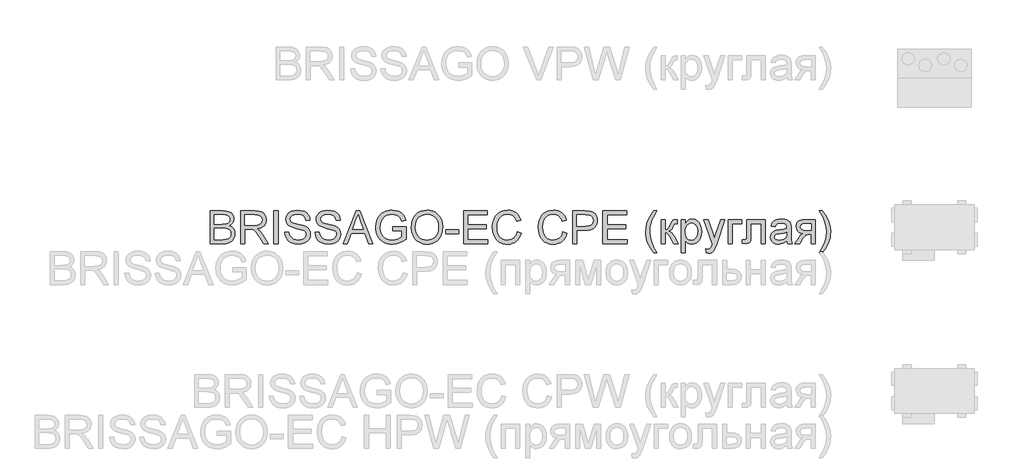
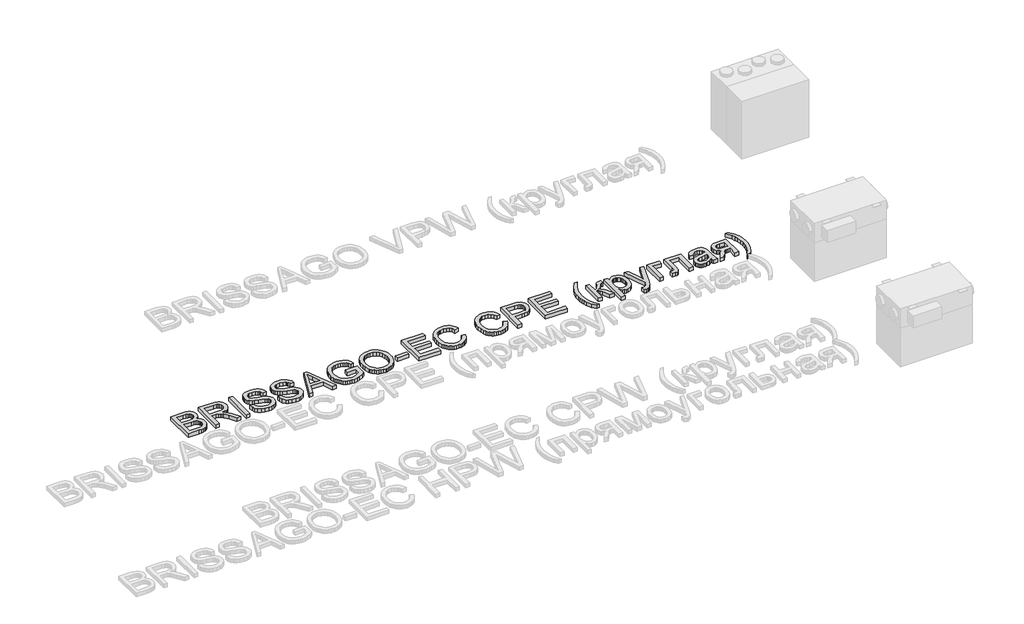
# One storey, part 12 of 28: 1 proxy.
"""IFC4 building model written with IfcOpenShell, lengths in millimetres."""

import ifcopenshell
import ifcopenshell.guid

model = None  # the IFC model being written
_history = None  # IfcOwnerHistory: only IFC2X3 demands one
_inside = {}  # id of a spatial element -> (the spatial element, [elements in it])
_under = {}  # id of a project, library or spatial element -> (it, [spatial elements below it])
_declared = {}  # id of a project -> (the project, [libraries it declares])
_typed = {}  # id of a type object -> (the type object, [elements of that type])
_made_of = {}  # id of a material, layer set ... -> (it, [elements and type objects made of it])


def new_model(schema):
    """Start an empty IFC model of exactly this schema.

    Asked for "IFC4X3", IfcOpenShell would pick the latest addendum, in which some entities
    have other attributes; the version numbers below select the first issue.
    IFC2X3 requires an IfcOwnerHistory on every rooted entity: one is made here for all.
    """
    global model, _history
    if schema == "IFC4X3":
        model = ifcopenshell.file(schema_version=(4, 3, 0, 0))
    else:
        model = ifcopenshell.file(schema=schema)
    _inside.clear()
    _under.clear()
    _declared.clear()
    _typed.clear()
    _made_of.clear()
    _history = None
    if model.schema == "IFC2X3":
        org = make("IfcOrganization", Name="unknown")
        user = make(
            "IfcPersonAndOrganization",
            ThePerson=make("IfcPerson", FamilyName="unknown"),
            TheOrganization=org,
        )
        app = make(
            "IfcApplication",
            ApplicationDeveloper=org,
            Version="unknown",
            ApplicationFullName="unknown",
            ApplicationIdentifier="unknown",
        )
        _history = make(
            "IfcOwnerHistory",
            OwningUser=user,
            OwningApplication=app,
            ChangeAction="ADDED",
            CreationDate=0,
        )
    return model


def make(cls, **values):
    """One entity of the class cls with the attributes given. An attribute that is None is left unset."""
    return model.create_entity(
        cls, **{name: value for name, value in values.items() if value is not None}
    )


def rooted(cls, **values):
    """An entity with a GlobalId (a new one), such as an element, a storey or a relation."""
    return make(cls, GlobalId=ifcopenshell.guid.new(), OwnerHistory=_history, **values)


def si_unit(unit_type, name, prefix=None):
    """IfcSIUnit, for example si_unit("LENGTHUNIT", "METRE", prefix="MILLI")."""
    return make("IfcSIUnit", UnitType=unit_type, Prefix=prefix, Name=name)


def assignment(units):
    """IfcUnitAssignment: the units of a project."""
    return None if units is None else make("IfcUnitAssignment", Units=units)


def point(xyz):
    """IfcCartesianPoint."""
    return None if xyz is None else make("IfcCartesianPoint", Coordinates=xyz)


def direction(xyz):
    """IfcDirection."""
    return None if xyz is None else make("IfcDirection", DirectionRatios=xyz)


def frame(location, z_axis=None, x_axis=None):
    """IfcAxis2Placement3D, a coordinate frame: its origin and axes. An axis left out is left unset."""
    return make(
        "IfcAxis2Placement3D",
        Location=point(location),
        Axis=direction(z_axis),
        RefDirection=direction(x_axis),
    )


def origin():
    """The frame at (0, 0, 0) with its axes left unset."""
    return frame((0.0, 0.0, 0.0))


def origin_with_axes():
    """The frame at (0, 0, 0) with the z axis (0, 0, 1) and the x axis (1, 0, 0) written out."""
    return frame((0.0, 0.0, 0.0), z_axis=(0.0, 0.0, 1.0), x_axis=(1.0, 0.0, 0.0))


def place(relative_to, where):
    """IfcLocalPlacement: puts the frame where relative to a parent placement (None: the world)."""
    return make(
        "IfcLocalPlacement", PlacementRelTo=relative_to, RelativePlacement=where
    )


def context(
    kind, dimensions, precision=None, world=None, true_north=None, identifier=None
):
    """IfcGeometricRepresentationContext, for example the 3D "Model" context."""
    return make(
        "IfcGeometricRepresentationContext",
        ContextIdentifier=identifier,
        ContextType=kind,
        CoordinateSpaceDimension=dimensions,
        Precision=precision,
        WorldCoordinateSystem=world,
        TrueNorth=true_north,
    )


def project(units=None, contexts=None):
    """IfcProject with its units and contexts."""
    return rooted(
        "IfcProject",
        Name="project",
        RepresentationContexts=contexts,
        UnitsInContext=assignment(units),
    )


def spatial(cls, under=None, at=None, **own):
    """A site, building, storey or space (cls), placed at a placement, below another one or the project."""
    s = rooted(cls, ObjectPlacement=at, **own)
    if under is not None:
        _under.setdefault(under.id(), (under, []))[1].append(s)
    return s


def polyline(points):
    """IfcPolyline through the points."""
    return make("IfcPolyline", Points=[point(p) for p in points])


def outline(outer, holes=None, kind="AREA"):
    """IfcArbitraryClosedProfileDef: a profile drawn as a closed curve; with holes, ...WithVoids."""
    if holes is None:
        return make("IfcArbitraryClosedProfileDef", ProfileType=kind, OuterCurve=outer)
    return make(
        "IfcArbitraryProfileDefWithVoids",
        ProfileType=kind,
        OuterCurve=outer,
        InnerCurves=holes,
    )


def extrude(swept, where, along, depth):
    """IfcExtrudedAreaSolid: the profile swept, set in the frame where, extruded along a direction by depth."""
    return make(
        "IfcExtrudedAreaSolid",
        SweptArea=swept,
        Position=where,
        ExtrudedDirection=direction(along),
        Depth=depth,
    )


def shape(context_of_items, identifier, shape_type, items):
    """IfcShapeRepresentation: the items that make up one representation, for example the "Body"."""
    return make(
        "IfcShapeRepresentation",
        ContextOfItems=context_of_items,
        RepresentationIdentifier=identifier,
        RepresentationType=shape_type,
        Items=items,
    )


def made_of(thing, what):
    """Note that an element or type object is made of a material, layer set ...; save() writes the relation."""
    if what is not None:
        _made_of.setdefault(what.id(), (what, []))[1].append(thing)
    return thing


def element(
    cls,
    number,
    at=None,
    inside=None,
    cuts=None,
    type_object=None,
    material=None,
    context=None,
    identifier="Body",
    shape_type=None,
    held_by="IfcProductDefinitionShape",
    body=None,
    shapes=None,
    **own,
):
    """One element of the class cls, such as IfcWall. Its Tag is "e" and its number.

    at: its placement. inside: the storey or other place that contains it. cuts: it is an
    opening in that element (IfcRelVoidsElement). A single representation is given by context,
    identifier, shape_type and body (its items); several are given by shapes. held_by: the class
    of the entity that holds the representations. save() writes the other relations.
    """
    e = rooted(cls, Tag="e%d" % number, ObjectPlacement=at, **own)
    if body is not None:
        shapes = [shape(context, identifier, shape_type, body)]
    if shapes is not None:
        e.Representation = make(held_by, Representations=shapes)
    if inside is not None:
        _inside.setdefault(inside.id(), (inside, []))[1].append(e)
    if cuts is not None:
        rooted(
            "IfcRelVoidsElement", RelatingBuildingElement=cuts, RelatedOpeningElement=e
        )
    if type_object is not None:
        _typed.setdefault(type_object.id(), (type_object, []))[1].append(e)
    return made_of(e, material)


def aggregate(whole, parts):
    """IfcRelAggregates: a whole, such as a stair, and the parts it consists of."""
    return rooted("IfcRelAggregates", RelatingObject=whole, RelatedObjects=parts)


def save(model, path):
    """Write the relations noted so far, then the file.

    IfcRelAggregates (storeys below a building ...), IfcRelContainedInSpatialStructure (elements
    in a storey), IfcRelDefinesByType, IfcRelAssociatesMaterial and IfcRelDeclares: one each for
    every whole, place, type object, material and project.
    """
    for whole, parts in _under.values():
        aggregate(whole, parts)
    for where, things in _inside.values():
        rooted(
            "IfcRelContainedInSpatialStructure",
            RelatedElements=things,
            RelatingStructure=where,
        )
    for kind, things in _typed.values():
        rooted("IfcRelDefinesByType", RelatedObjects=things, RelatingType=kind)
    for what, things in _made_of.values():
        rooted("IfcRelAssociatesMaterial", RelatedObjects=things, RelatingMaterial=what)
    for by, libraries in _declared.values():
        rooted("IfcRelDeclares", RelatingContext=by, RelatedDefinitions=libraries)
    model.write(path)


model = new_model("IFC4")

# Units and contexts
model_context = context("Model", 3, world=origin())
ifc_project = project(units=[si_unit("LENGTHUNIT", "METRE", prefix="MILLI")], contexts=[model_context])

# Site, building, storey
site = spatial("IfcSite", under=ifc_project)
building = spatial("IfcBuilding", under=site)
storey = spatial("IfcBuildingStorey", under=building, Name="Уровень 1", Elevation=0.0)

# Proxy
placement = place(None, origin())
element("IfcBuildingElementProxy", 1, Name="400 мм Arial", ObjectType="400 мм Arial", at=placement, inside=storey, context=model_context, shape_type="SweptSolid", body=[
    extrude(outline(polyline([(-29525.6094879, -2348.6932142), (-29525.6094879, -1946.8679737), (-29372.2762723, -1946.8679737), (-29330.1047329, -1949.8232923), (-29297.1792944, -1958.6892484), (-29271.9425895, -1973.6865711), (-29252.8372512, -1995.0359896), (-29240.80751, -2020.1500671), (-29236.7975962, -2046.441367), (-29240.1698479, -2070.6357396), (-29250.2866027, -2093.3831096), (-29267.2214372, -2113.2855255), (-29291.0479278, -2128.9450358), (-29262.5861241, -2143.8074684), (-29241.5555367, -2166.4199484), (-29228.5693023, -2195.2864223), (-29224.2405575, -2228.9108366), (-29227.1958762, -2256.9311819), (-29236.0618322, -2282.9159135), (-29249.2933213, -2305.0133587), (-29265.3452391, -2321.3718447), (-29285.0024003, -2333.217645), (-29309.0496201, -2341.7770327), (-29338.2717132, -2346.9641689), (-29373.4534947, -2348.6932142), (-29525.6094879, -2348.6932142)]), holes=[polyline([(-29475.3813328, -2110.1094776), (-29383.6560887, -2110.1094776), (-29330.0924702, -2105.7929956), (-29311.3427512, -2098.3495165), (-29297.8660074, -2087.2026921), (-29289.7358153, -2072.5242005), (-29287.0257513, -2054.48572), (-29289.5518743, -2036.974537), (-29297.1302434, -2021.7196969), (-29309.4175021, -2009.812583), (-29326.0702937, -2002.3445785), (-29351.6258297, -1998.4082412), (-29390.6213211, -1997.0961287), (-29475.3813328, -1997.0961287), (-29475.3813328, -2110.1094776)]), polyline([(-29475.3813328, -2298.4650592), (-29372.3743742, -2298.4650592), (-29335.0956653, -2296.5030219), (-29303.5559156, -2285.5646639), (-29291.9798955, -2276.1346221), (-29282.6602183, -2263.2464895), (-29276.516589, -2247.4766146), (-29274.4687125, -2229.4013459), (-29276.8722082, -2208.4075468), (-29284.0826953, -2190.3568035), (-29296.6765223, -2176.2423976), (-29315.2300376, -2167.0576105), (-29341.5090748, -2162.0176272), (-29377.2794675, -2160.3376327), (-29475.3813328, -2160.3376327), (-29475.3813328, -2298.4650592)])]), origin_with_axes(), (0.0, 0.0, 1.0), 50.0),
    extrude(outline(polyline([(-29155.1768442, -2348.6932142), (-29155.1768442, -1946.8679737), (-28982.0270518, -1946.8679737), (-28935.4899794, -1949.5780377), (-28901.6325732, -1957.7082298), (-28876.8863776, -1972.7178152), (-28857.6829375, -1996.0660591), (-28845.3588906, -2025.0183722), (-28841.250875, -2056.8401647), (-28842.9523292, -2077.4783447), (-28848.0566919, -2096.4242674), (-28856.5639631, -2113.677933), (-28868.4741427, -2129.2393414), (-28883.9405149, -2142.6118519), (-28903.1163639, -2153.2988239), (-28926.0016897, -2161.3002573), (-28952.5964922, -2166.6161521), (-28924.0488494, -2188.1004606), (-28883.3365753, -2239.8001437), (-28816.3330012, -2348.6932142), (-28874.7036111, -2348.6932142), (-28926.9919054, -2265.4047305), (-28964.7611235, -2210.2714822), (-28978.801953, -2194.195039), (-28991.2976781, -2184.2254369), (-29015.1854823, -2174.6605051), (-29044.3217364, -2172.8946715), (-29104.9486892, -2172.8946715), (-29104.9486892, -2348.6932142), (-29155.1768442, -2348.6932142)]), holes=[polyline([(-29104.9486892, -2122.6665164), (-28992.5239514, -2122.6665164), (-28960.236175, -2120.8884201), (-28935.1834111, -2115.5541312), (-28916.3233275, -2106.3080304), (-28902.6135918, -2092.7944984), (-28894.2626705, -2076.4482751), (-28891.4790301, -2058.7041002), (-28896.7887936, -2034.2031593), (-28912.7180839, -2014.4601589), (-28924.8796496, -2006.8633957), (-28940.1252926, -2001.4371363), (-28979.8688108, -1997.0961287), (-29104.9486892, -1997.0961287), (-29104.9486892, -2122.6665164)])]), origin_with_axes(), (0.0, 0.0, 1.0), 50.0),
    extrude(outline(polyline([(-28747.0730842, -2348.6932142), (-28747.0730842, -1946.8679737), (-28696.8449292, -1946.8679737), (-28696.8449292, -2348.6932142), (-28747.0730842, -2348.6932142)])), origin_with_axes(), (0.0, 0.0, 1.0), 50.0),
    extrude(outline(polyline([(-28615.2241772, -2210.5657878), (-28564.9960221, -2210.5657878), (-28559.2325375, -2238.4389803), (-28548.8092143, -2260.8429938), (-28532.5488301, -2278.6239569), (-28509.2741626, -2292.6279982), (-28480.8246216, -2301.7146835), (-28449.0396172, -2304.7435786), (-28421.0560601, -2302.4504475), (-28396.5551192, -2295.5710541), (-28376.7017542, -2284.6817471), (-28362.6609248, -2270.3588747), (-28354.3100035, -2253.9145496), (-28351.526363, -2236.660884), (-28353.6110277, -2219.8486768), (-28359.8650216, -2205.317338), (-28372.5692132, -2192.9197148), (-28394.0044707, -2182.5086543), (-28467.1394114, -2163.3297396), (-28515.1480118, -2150.6378108), (-28545.8661584, -2138.5590186), (-28570.8698713, -2121.6609723), (-28588.5895207, -2101.1822079), (-28599.147734, -2077.5641838), (-28602.6671384, -2051.2483584), (-28598.3138681, -2021.8300615), (-28585.2540573, -1994.3983274), (-28563.8310625, -1971.1481853), (-28534.3882401, -1954.2746645), (-28499.0470431, -1944.0107568), (-28459.9289243, -1940.5894543), (-28417.5489184, -1944.1701724), (-28380.4664133, -1954.9123266), (-28350.0057841, -1972.5951878), (-28327.491406, -1996.9980269), (-28313.2421101, -2026.6002647), (-28307.5767273, -2059.8813226), (-28357.8048824, -2059.8813226), (-28367.0264578, -2029.9112027), (-28375.3896418, -2018.0531397), (-28386.2544234, -2008.2797414), (-28416.2981197, -1995.1831424), (-28457.966887, -1990.8176093), (-28500.6166729, -1995.1340914), (-28516.9199767, -2000.529694), (-28529.8755543, -2008.0835376), (-28546.7981261, -2027.139825), (-28552.4389833, -2049.7768304), (-28548.4413323, -2069.0783724), (-28536.4483793, -2084.6029926), (-28508.0969402, -2098.4844066), (-28454.4352198, -2112.6601261), (-28399.0567168, -2126.1246072), (-28365.5549298, -2137.8723055), (-28336.9214478, -2156.094727), (-28316.9454555, -2178.5845797), (-28305.2100198, -2205.0966088), (-28301.298208, -2235.3855597), (-28305.798631, -2266.348961), (-28319.2999003, -2295.4729523), (-28341.2501926, -2320.5379789), (-28371.0976852, -2339.3244861), (-28406.9907052, -2351.0599218), (-28447.0775799, -2354.9717336), (-28496.2879281, -2350.7533534), (-28536.7917358, -2338.0982128), (-28569.0549868, -2316.9572608), (-28593.5436649, -2287.2814465), (-28609.2644889, -2251.1309091), (-28615.2241772, -2210.5657878)])), origin_with_axes(), (0.0, 0.0, 1.0), 50.0),
    extrude(outline(polyline([(-28244.7915335, -2210.5657878), (-28194.5633784, -2210.5657878), (-28188.7998938, -2238.4389803), (-28178.3765706, -2260.8429938), (-28162.1161865, -2278.6239569), (-28138.8415189, -2292.6279982), (-28110.3919779, -2301.7146835), (-28078.6069735, -2304.7435786), (-28050.6234164, -2302.4504475), (-28026.1224756, -2295.5710541), (-28006.2691106, -2284.6817471), (-27992.2282811, -2270.3588747), (-27983.8773598, -2253.9145496), (-27981.0937194, -2236.660884), (-27983.178384, -2219.8486768), (-27989.4323779, -2205.317338), (-28002.1365695, -2192.9197148), (-28023.5718271, -2182.5086543), (-28096.7067677, -2163.3297396), (-28144.7153681, -2150.6378108), (-28175.4335147, -2138.5590186), (-28200.4372276, -2121.6609723), (-28218.1568771, -2101.1822079), (-28228.7150903, -2077.5641838), (-28232.2344947, -2051.2483584), (-28227.8812245, -2021.8300615), (-28214.8214136, -1994.3983274), (-28193.3984188, -1971.1481853), (-28163.9555964, -1954.2746645), (-28128.6143994, -1944.0107568), (-28089.4962806, -1940.5894543), (-28047.1162748, -1944.1701724), (-28010.0337696, -1954.9123266), (-27979.5731404, -1972.5951878), (-27957.0587623, -1996.9980269), (-27942.8094664, -2026.6002647), (-27937.1440837, -2059.8813226), (-27987.3722387, -2059.8813226), (-27996.5938141, -2029.9112027), (-28004.9569981, -2018.0531397), (-28015.8217797, -2008.2797414), (-28045.865476, -1995.1831424), (-28087.5342433, -1990.8176093), (-28130.1840293, -1995.1340914), (-28146.487333, -2000.529694), (-28159.4429106, -2008.0835376), (-28176.3654824, -2027.139825), (-28182.0063397, -2049.7768304), (-28178.0086886, -2069.0783724), (-28166.0157356, -2084.6029926), (-28137.6642965, -2098.4844066), (-28084.0025761, -2112.6601261), (-28028.6240731, -2126.1246072), (-27995.1222861, -2137.8723055), (-27966.4888042, -2156.094727), (-27946.5128118, -2178.5845797), (-27934.7773762, -2205.0966088), (-27930.8655643, -2235.3855597), (-27935.3659874, -2266.348961), (-27948.8672566, -2295.4729523), (-27970.817549, -2320.5379789), (-28000.6650415, -2339.3244861), (-28036.5580615, -2351.0599218), (-28076.6449362, -2354.9717336), (-28125.8552845, -2350.7533534), (-28166.3590921, -2338.0982128), (-28198.6223431, -2316.9572608), (-28223.1110213, -2287.2814465), (-28238.8318452, -2251.1309091), (-28244.7915335, -2210.5657878)])), origin_with_axes(), (0.0, 0.0, 1.0), 50.0),
    extrude(outline(polyline([(-27902.3179215, -2348.6932142), (-27741.9213716, -1946.8679737), (-27699.1489583, -1946.8679737), (-27538.7524084, -2348.6932142), (-27591.8255175, -2348.6932142), (-27637.8352924, -2223.1228266), (-27803.3331393, -2223.1228266), (-27849.2448123, -2348.6932142), (-27902.3179215, -2348.6932142)]), holes=[polyline([(-27784.8899886, -2172.8946715), (-27656.1803412, -2172.8946715), (-27692.3799295, -2074.106093), (-27720.5351649, -1997.0961287), (-27745.5511406, -2065.4731289), (-27784.8899886, -2172.8946715)])]), origin_with_axes(), (0.0, 0.0, 1.0), 50.0),
    extrude(outline(polyline([(-27296.7351065, -2191.7302296), (-27296.7351065, -2141.5020746), (-27133.4936025, -2141.5020746), (-27133.4936025, -2291.6960305), (-27173.1635443, -2319.2871801), (-27214.0842849, -2339.0792314), (-27256.1577224, -2350.9986081), (-27299.285755, -2354.9717336), (-27328.1369004, -2353.3929067), (-27355.6330139, -2348.656426), (-27381.7740953, -2340.7622916), (-27406.5601448, -2329.7105033), (-27429.1910188, -2315.6666081), (-27448.8665742, -2298.796153), (-27465.5868109, -2279.0991378), (-27479.3517289, -2256.5755627), (-27490.1030802, -2231.9458631), (-27497.7826168, -2205.9304747), (-27502.3903388, -2178.5293974), (-27503.9262461, -2149.7426313), (-27497.8071423, -2093.1501177), (-27490.1582625, -2066.3345859), (-27479.4498307, -2040.5062042), (-27465.8719194, -2016.7992753), (-27449.6146009, -1996.348102), (-27430.6778752, -1979.1526844), (-27409.0617423, -1965.2130225), (-27385.2352518, -1954.4402114), (-27359.6674531, -1946.7453463), (-27332.3583463, -1942.1284273), (-27303.3079314, -1940.5894543), (-27261.9334697, -1944.1579096), (-27224.7283373, -1954.8632757), (-27193.397054, -1971.9330003), (-27169.6441399, -1994.5945312), (-27152.0716432, -2023.9392516), (-27139.2816125, -2061.058545), (-27185.585693, -2074.106093), (-27195.9231771, -2047.6308521), (-27208.4924786, -2027.6548598), (-27225.1207447, -2012.5962235), (-27247.6351228, -2000.8730505), (-27274.4782458, -1993.3314696), (-27304.0927464, -1990.8176093), (-27338.759493, -1993.5276734), (-27368.3985191, -2001.6578655), (-27392.89946, -2014.1903788), (-27412.1519511, -2030.1074064), (-27426.9285446, -2048.5873453), (-27438.0017926, -2068.8085923), (-27449.7740165, -2106.7249633), (-27453.6980911, -2147.6824921), (-27448.9769388, -2195.7156179), (-27434.813482, -2235.2384069), (-27411.6369163, -2265.9688163), (-27379.8764374, -2287.624803), (-27342.7080931, -2300.4638847), (-27303.3079314, -2304.7435786), (-27268.5185574, -2301.5184797), (-27234.5875747, -2291.8431833), (-27205.1202269, -2278.5135923), (-27183.7217575, -2264.32561), (-27183.7217575, -2191.7302296), (-27296.7351065, -2191.7302296)])), origin_with_axes(), (0.0, 0.0, 1.0), 50.0),
    extrude(outline(polyline([(-27070.7084086, -2153.0780947), (-27067.3606825, -2105.9462797), (-27057.317504, -2064.2223301), (-27040.5788732, -2027.9062458), (-27017.1447901, -1996.9980269), (-26988.4193377, -1972.3192763), (-26955.8065988, -1954.6915974), (-26919.3065735, -1944.1149901), (-26878.9192618, -1940.5894543), (-26851.8860665, -1942.2449232), (-26826.2140346, -1947.2113302), (-26801.9031661, -1955.4886751), (-26778.953461, -1967.0769579), (-26758.0087127, -1981.6266908), (-26739.7127148, -1998.7883859), (-26724.0654673, -2018.5620431), (-26711.0669701, -2040.9476626), (-26700.8521134, -2065.4363407), (-26693.5557872, -2091.5191742), (-26687.7187262, -2148.467307), (-26689.2546335, -2178.1247272), (-26693.8623555, -2206.1757293), (-26701.5418922, -2232.6203134), (-26712.2932435, -2257.4584794), (-26725.8619577, -2280.0341712), (-26741.9935832, -2299.6913325), (-26760.6881199, -2316.4299633), (-26781.9455679, -2330.2500636), (-26804.9289955, -2341.0657942), (-26828.8014713, -2348.7913161), (-26853.5629953, -2353.4266293), (-26879.2135674, -2354.9717336), (-26906.7188779, -2353.264148), (-26932.728135, -2348.1413913), (-26957.2413386, -2339.6034633), (-26980.2584887, -2327.6503641), (-27001.1787115, -2312.745012), (-27019.401133, -2295.3503249), (-27034.9257532, -2275.4663031), (-27047.7525721, -2253.0929464), (-27064.9694495, -2204.4712094), (-27070.7084086, -2153.0780947)]), holes=[polyline([(-27020.4802536, -2153.568604), (-27017.9694589, -2186.8680559), (-27010.4370751, -2216.4273742), (-26997.883102, -2242.2465589), (-26980.3075397, -2264.32561), (-26958.9427928, -2282.0084713), (-26935.0212661, -2294.6390864), (-26908.5429595, -2302.2174555), (-26879.507873, -2304.7435786), (-26849.9761458, -2302.1929301), (-26823.1851395, -2294.5409846), (-26799.1348541, -2281.7877421), (-26777.8252895, -2263.9332026), (-26760.3784859, -2241.3881676), (-26747.9164833, -2214.5634388), (-26740.4392818, -2183.4590161), (-26737.9468813, -2148.0748995), (-26742.2143124, -2103.6102291), (-26755.0166058, -2065.1788233), (-26776.0226678, -2033.7494382), (-26804.9014044, -2010.2908296), (-26839.7398293, -1995.6859144), (-26878.6249562, -1990.8176093), (-26906.6514329, -1993.1628571), (-26932.6545586, -2000.1986002), (-26956.6343333, -2011.9248388), (-26978.590757, -2028.3415728), (-26996.9174118, -2050.2397486), (-27010.0078794, -2078.4103124), (-27017.86216, -2112.8532642), (-27020.4802536, -2153.568604)])]), origin_with_axes(), (0.0, 0.0, 1.0), 50.0),
    extrude(outline(polyline([(-26650.0476099, -2229.4013459), (-26650.0476099, -2179.1731909), (-26493.0846253, -2179.1731909), (-26493.0846253, -2229.4013459), (-26650.0476099, -2229.4013459)])), origin_with_axes(), (0.0, 0.0, 1.0), 50.0),
    extrude(outline(polyline([(-26430.2994314, -2348.6932142), (-26430.2994314, -1946.8679737), (-26141.4875397, -1946.8679737), (-26141.4875397, -1997.0961287), (-26380.0712763, -1997.0961287), (-26380.0712763, -2116.387997), (-26154.0445785, -2116.387997), (-26154.0445785, -2166.6161521), (-26380.0712763, -2166.6161521), (-26380.0712763, -2298.4650592), (-26135.2090204, -2298.4650592), (-26135.2090204, -2348.6932142), (-26430.2994314, -2348.6932142)])), origin_with_axes(), (0.0, 0.0, 1.0), 50.0),
    extrude(outline(polyline([(-25777.3334155, -2205.8568983), (-25727.1052604, -2218.8063445), (-25737.0442056, -2250.0425916), (-25750.2818261, -2277.3363699), (-25766.8181218, -2300.6876796), (-25786.6530927, -2320.0965205), (-25809.339149, -2335.3544262), (-25834.4287011, -2346.2529303), (-25861.9217489, -2352.7920328), (-25891.8182924, -2354.9717336), (-25922.4475341, -2353.322396), (-25950.0785377, -2348.3743832), (-25974.7113029, -2340.1276951), (-25996.3458299, -2328.5823318), (-26015.2794899, -2313.9099716), (-26031.8096542, -2296.2822927), (-26045.9363229, -2275.699295), (-26057.6594958, -2252.1609787), (-26073.4416334, -2200.2896174), (-26078.7023459, -2144.7394361), (-26072.7549203, -2086.148097), (-26065.3206383, -2059.8506657), (-26054.9126435, -2035.55206), (-26041.7639279, -2013.6538842), (-26026.1074833, -1994.557743), (-26007.9433098, -1978.2636363), (-25987.2714074, -1964.7715641), (-25964.7938175, -1954.191891), (-25941.2125816, -1946.6349817), (-25890.7391718, -1940.5894543), (-25862.0106537, -1942.5453602), (-25835.6672372, -1948.413078), (-25811.7089222, -1958.1926077), (-25790.1357089, -1971.8839493), (-25771.3032164, -1989.1253522), (-25755.5670641, -2009.5550656), (-25742.9272519, -2033.1730897), (-25733.3837798, -2059.9794244), (-25783.6119348, -2071.947852), (-25801.0250159, -2035.319068), (-25824.8147183, -2010.1927278), (-25855.2753475, -1995.6613889), (-25892.7012091, -1990.8176093), (-25935.8415044, -1996.1886865), (-25954.5237784, -2002.9025329), (-25971.2808033, -2012.3019179), (-25998.1729772, -2037.4650463), (-26015.6718974, -2069.9858147), (-26025.2736175, -2106.7494888), (-26028.4741908, -2144.6413343), (-26024.6850063, -2191.0435166), (-26013.3174526, -2231.1671795), (-25993.9423342, -2263.4794814), (-25966.1304554, -2286.4475807), (-25932.7880839, -2300.1695791), (-25896.8214875, -2304.7435786), (-25874.9846254, -2303.1862114), (-25854.8952028, -2298.5141101), (-25836.5532196, -2290.7272745), (-25819.958676, -2279.8257048), (-25805.5039792, -2265.8584517), (-25793.5815369, -2248.8745662), (-25784.191349, -2228.8740484), (-25777.3334155, -2205.8568983)])), origin_with_axes(), (0.0, 0.0, 1.0), 50.0),
    extrude(outline(polyline([(-25218.5451902, -2205.8568983), (-25168.3170352, -2218.8063445), (-25178.2559804, -2250.0425916), (-25191.4936009, -2277.3363699), (-25208.0298965, -2300.6876796), (-25227.8648675, -2320.0965205), (-25250.5509238, -2335.3544262), (-25275.6404759, -2346.2529303), (-25303.1335237, -2352.7920328), (-25333.0300671, -2354.9717336), (-25363.6593089, -2353.322396), (-25391.2903124, -2348.3743832), (-25415.9230777, -2340.1276951), (-25437.5576047, -2328.5823318), (-25456.4912647, -2313.9099716), (-25473.021429, -2296.2822927), (-25487.1480977, -2275.699295), (-25498.8712706, -2252.1609787), (-25514.6534082, -2200.2896174), (-25519.9141207, -2144.7394361), (-25513.9666951, -2086.148097), (-25506.5324131, -2059.8506657), (-25496.1244183, -2035.55206), (-25482.9757027, -2013.6538842), (-25467.3192581, -1994.557743), (-25449.1550846, -1978.2636363), (-25428.4831822, -1964.7715641), (-25406.0055923, -1954.191891), (-25382.4243564, -1946.6349817), (-25331.9509466, -1940.5894543), (-25303.2224285, -1942.5453602), (-25276.8790119, -1948.413078), (-25252.920697, -1958.1926077), (-25231.3474837, -1971.8839493), (-25212.5149912, -1989.1253522), (-25196.7788389, -2009.5550656), (-25184.1390266, -2033.1730897), (-25174.5955546, -2059.9794244), (-25224.8237096, -2071.947852), (-25242.2367907, -2035.319068), (-25266.0264931, -2010.1927278), (-25296.4871223, -1995.6613889), (-25333.9129839, -1990.8176093), (-25377.0532792, -1996.1886865), (-25395.7355532, -2002.9025329), (-25412.4925781, -2012.3019179), (-25439.3847519, -2037.4650463), (-25456.8836722, -2069.9858147), (-25466.4853923, -2106.7494888), (-25469.6859656, -2144.6413343), (-25465.8967811, -2191.0435166), (-25454.5292274, -2231.1671795), (-25435.154109, -2263.4794814), (-25407.3422302, -2286.4475807), (-25373.9998587, -2300.1695791), (-25338.0332623, -2304.7435786), (-25316.1964002, -2303.1862114), (-25296.1069776, -2298.5141101), (-25277.7649944, -2290.7272745), (-25261.1704508, -2279.8257048), (-25246.715754, -2265.8584517), (-25234.7933117, -2248.8745662), (-25225.4031238, -2228.8740484), (-25218.5451902, -2205.8568983)])), origin_with_axes(), (0.0, 0.0, 1.0), 50.0),
    extrude(outline(polyline([(-25099.2533219, -2348.6932142), (-25099.2533219, -1946.8679737), (-24950.3346903, -1946.8679737), (-24890.2963487, -1950.6939464), (-24863.5268022, -1957.8431198), (-24841.4906707, -1969.4804536), (-24823.7464958, -1986.1332453), (-24809.8528191, -2008.3287923), (-24800.8764984, -2034.5097276), (-24797.8843915, -2063.1186841), (-24799.9046768, -2087.7851719), (-24805.9655327, -2110.4773596), (-24816.0669591, -2131.1952473), (-24830.2089561, -2149.938835), (-24849.6239284, -2165.4757179), (-24875.5442807, -2176.5734914), (-24907.9700129, -2183.2321556), (-24946.901125, -2185.4517103), (-25049.0251669, -2185.4517103), (-25049.0251669, -2348.6932142), (-25099.2533219, -2348.6932142)]), holes=[polyline([(-25049.0251669, -2135.2235552), (-24943.958069, -2135.2235552), (-24899.4198222, -2130.6127675), (-24882.8160814, -2124.8492829), (-24869.9892625, -2116.7804045), (-24860.4181993, -2106.6207301), (-24853.5817256, -2094.5848574), (-24848.1125466, -2064.8845177), (-24851.3376454, -2042.3210887), (-24861.0129419, -2023.2893268), (-24875.9366881, -2008.9664544), (-24894.9071364, -2000.529694), (-24945.1352914, -1997.0961287), (-25049.0251669, -1997.0961287), (-25049.0251669, -2135.2235552)])]), origin_with_axes(), (0.0, 0.0, 1.0), 50.0),
    extrude(outline(polyline([(-24728.8206783, -2348.6932142), (-24728.8206783, -1946.8679737), (-24440.0087866, -1946.8679737), (-24440.0087866, -1997.0961287), (-24678.5925232, -1997.0961287), (-24678.5925232, -2116.387997), (-24452.5658254, -2116.387997), (-24452.5658254, -2166.6161521), (-24678.5925232, -2166.6161521), (-24678.5925232, -2298.4650592), (-24433.7302672, -2298.4650592), (-24433.7302672, -2348.6932142), (-24728.8206783, -2348.6932142)])), origin_with_axes(), (0.0, 0.0, 1.0), 50.0),
    extrude(outline(polyline([(-24107.2472592, -2461.7065632), (-24146.1691743, -2407.0883496), (-24178.5673153, -2343.8862228), (-24191.3144265, -2309.8326128), (-24200.4195059, -2275.1658661), (-24205.8825535, -2239.8859828), (-24207.7035694, -2203.9929628), (-24202.2589158, -2141.575651), (-24185.9249552, -2081.8561404), (-24153.5022887, -2014.2149042), (-24107.2472592, -1946.8679737), (-24069.5761429, -1946.8679737), (-24116.5669364, -2026.4285865), (-24132.6065914, -2064.1978046), (-24144.8202737, -2103.5366527), (-24154.3116291, -2153.7893332), (-24157.4754143, -2204.2872684), (-24151.9817098, -2268.6788803), (-24135.5005964, -2333.0459667), (-24108.0320741, -2397.3885277), (-24069.5761429, -2461.7065632), (-24107.2472592, -2461.7065632)])), origin_with_axes(), (0.0, 0.0, 1.0), 50.0),
    extrude(outline(polyline([(-24019.3479878, -2053.6028032), (-23969.1198328, -2053.6028032), (-23969.1198328, -2179.1731909), (-23948.6901193, -2176.916848), (-23935.4708929, -2170.1478193), (-23923.7722455, -2152.4894835), (-23907.9042688, -2117.5652194), (-23884.9974832, -2072.1931067), (-23875.5551787, -2063.032845), (-23864.7884989, -2057.4287759), (-23828.0493503, -2053.6028032), (-23818.4353675, -2053.6028032), (-23818.4353675, -2104.1252639), (-23831.973425, -2103.8309583), (-23847.6697234, -2105.1553334), (-23856.4988913, -2109.128459), (-23873.7648196, -2142.1887876), (-23884.3720838, -2164.2249191), (-23894.0228548, -2177.9469176), (-23905.7092395, -2187.1071792), (-23922.4233448, -2195.4581005), (-23906.5063172, -2202.5275662), (-23890.7364423, -2215.0048972), (-23875.1137203, -2232.8900935), (-23859.638151, -2256.1831552), (-23805.8783288, -2348.6932142), (-23862.9736144, -2348.6932142), (-23915.6543161, -2258.1451925), (-23929.8790866, -2234.0489218), (-23942.1418198, -2219.8364141), (-23954.5271803, -2212.8834444), (-23969.1198328, -2210.5657878), (-23969.1198328, -2348.6932142), (-24019.3479878, -2348.6932142), (-24019.3479878, -2053.6028032)])), origin_with_axes(), (0.0, 0.0, 1.0), 50.0),
    extrude(outline(polyline([(-23774.4857318, -2461.7065632), (-23774.4857318, -2053.6028032), (-23724.2575768, -2053.6028032), (-23724.2575768, -2102.8499396), (-23707.8745653, -2078.5574652), (-23689.5295164, -2061.2056978), (-23668.1433098, -2050.7946373), (-23642.6368248, -2047.3242838), (-23608.6690539, -2052.1803261), (-23578.9687141, -2066.7484531), (-23554.7866043, -2090.145748), (-23537.3735232, -2121.489294), (-23526.8520982, -2158.4982227), (-23523.3449565, -2198.8916658), (-23527.3058193, -2241.8480201), (-23539.1884077, -2280.2671631), (-23558.6125771, -2312.1993203), (-23585.1981826, -2335.6947171), (-23616.1615839, -2350.1524795), (-23648.7191404, -2354.9717336), (-23671.809867, -2351.7466348), (-23692.4235215, -2342.0713383), (-23710.0695945, -2327.4664231), (-23724.2575768, -2309.4524681), (-23724.2575768, -2461.7065632), (-23774.4857318, -2461.7065632)]), holes=[polyline([(-23724.2575768, -2203.5024535), (-23718.825186, -2248.5312097), (-23712.0346975, -2265.9688163), (-23702.5280136, -2280.0219085), (-23678.4807938, -2298.563161), (-23664.7189415, -2303.1984742), (-23649.7982609, -2304.7435786), (-23634.6629825, -2303.1432919), (-23620.6497442, -2298.3424318), (-23607.7585459, -2290.3409984), (-23595.9893878, -2279.1389917), (-23586.1822669, -2264.5769961), (-23579.1771806, -2246.495596), (-23574.9741288, -2224.8947915), (-23573.5731115, -2199.7745826), (-23579.0422905, -2154.9910811), (-23585.8787643, -2137.4185844), (-23595.4498275, -2123.0589239), (-23619.4602591, -2103.9290601), (-23633.0657615, -2099.1465942), (-23647.7381218, -2097.5524389), (-23662.3644968, -2099.2477617), (-23676.1263491, -2104.3337303), (-23701.0564856, -2124.6776047), (-23711.206963, -2139.7760949), (-23718.457304, -2157.9463997), (-23722.8075086, -2179.1885193), (-23724.2575768, -2203.5024535)])]), origin_with_axes(), (0.0, 0.0, 1.0), 50.0),
    extrude(outline(polyline([(-23466.838282, -2461.7065632), (-23473.1168014, -2413.3423435), (-23447.6103164, -2417.7569275), (-23434.1948863, -2416.3712386), (-23423.7715631, -2412.2141721), (-23409.1543852, -2396.7631283), (-23395.420124, -2359.778725), (-23391.4960494, -2347.6140937), (-23498.2308789, -2053.6028032), (-23445.2558716, -2053.6028032), (-23388.6510953, -2217.4329184), (-23368.9326204, -2282.9649644), (-23349.2141454, -2225.0848639), (-23291.0397392, -2053.6028032), (-23238.4571394, -2053.6028032), (-23341.1697925, -2355.7565486), (-23367.8534998, -2421.2885946), (-23381.5141846, -2442.2088174), (-23396.9897539, -2456.703368), (-23414.9669207, -2465.1646539), (-23436.1323981, -2467.9850826), (-23466.838282, -2461.7065632)])), origin_with_axes(), (0.0, 0.0, 1.0), 50.0),
    extrude(outline(polyline([(-23196.8619485, -2053.6028032), (-23033.6204445, -2053.6028032), (-23033.6204445, -2103.8309583), (-23146.6337934, -2103.8309583), (-23146.6337934, -2348.6932142), (-23196.8619485, -2348.6932142), (-23196.8619485, -2053.6028032)])), origin_with_axes(), (0.0, 0.0, 1.0), 50.0),
    extrude(outline(polyline([(-22970.8352506, -2053.6028032), (-22744.8085528, -2053.6028032), (-22744.8085528, -2348.3989087), (-22795.0367079, -2348.3989087), (-22795.0367079, -2103.8309583), (-22920.6070956, -2103.8309583), (-22920.6070956, -2244.6071351), (-22923.9916099, -2309.55057), (-22930.331443, -2324.253587), (-22942.5819134, -2336.9700413), (-22961.1722169, -2345.762421), (-22986.5315491, -2348.6932142), (-23027.3419251, -2346.1425657), (-23027.3419251, -2298.4650592), (-23004.8765979, -2298.4650592), (-22982.1660161, -2295.3748504), (-22973.0915936, -2285.5646639), (-22970.8352506, -2241.762181), (-22970.8352506, -2053.6028032)])), origin_with_axes(), (0.0, 0.0, 1.0), 50.0),
    extrude(outline(polyline([(-22481.1107387, -2311.0220979), (-22505.1089075, -2331.5989642), (-22529.8183148, -2345.0634452), (-22555.8030464, -2352.4946615), (-22583.627188, -2354.9717336), (-22605.9913476, -2353.4818116), (-22625.6025236, -2349.0120453), (-22642.4607161, -2341.5624349), (-22656.5659249, -2331.1329803), (-22667.7035523, -2318.3858692), (-22675.6590005, -2303.9832891), (-22680.4322693, -2287.92524), (-22682.023359, -2270.2117219), (-22679.6198633, -2249.389601), (-22672.4093762, -2230.4804665), (-22661.2870772, -2214.2936587), (-22647.1481458, -2201.638518), (-22630.5321424, -2192.0735862), (-22611.9786271, -2185.1574047), (-22568.5195007, -2177.603561), (-22517.1631742, -2169.6573099), (-22481.4050443, -2160.3376327), (-22481.1107387, -2149.1540201), (-22484.5688294, -2126.7377438), (-22494.9431017, -2112.071515), (-22518.1441928, -2101.1822079), (-22550.4687575, -2097.5524389), (-22580.3898264, -2099.9681973), (-22601.2855238, -2107.2154726), (-22615.5348197, -2120.61864), (-22625.5166845, -2141.5020746), (-22675.7448396, -2135.2235552), (-22667.0260363, -2107.7550329), (-22654.0152764, -2086.1726225), (-22635.4985493, -2069.6669836), (-22610.2618444, -2057.4287759), (-22579.396545, -2049.8504068), (-22543.9940344, -2047.3242838), (-22510.0385262, -2049.5561012), (-22483.1218269, -2056.2515535), (-22462.8270035, -2066.3192575), (-22448.7371231, -2078.6678298), (-22439.3929204, -2093.9349326), (-22433.3351302, -2112.758228), (-22430.8825836, -2156.7078637), (-22430.8825836, -2219.1987519), (-22428.3319351, -2306.4603612), (-22418.3255448, -2348.6932142), (-22468.5536999, -2348.6932142), (-22476.5980529, -2331.2310822), (-22481.1107387, -2311.0220979)]), holes=[polyline([(-22481.1107387, -2210.5657878), (-22514.8577804, -2218.9289718), (-22562.1428795, -2225.9677807), (-22605.3567512, -2234.1102355), (-22616.6016775, -2239.6775163), (-22624.9280733, -2247.3539873), (-22630.0784212, -2256.5510372), (-22631.7952039, -2266.6800548), (-22628.0550703, -2281.6160638), (-22616.8346694, -2293.8542715), (-22598.379256, -2302.0212518), (-22572.9340847, -2304.7435786), (-22545.9560717, -2301.7392089), (-22522.1173184, -2292.7261), (-22502.7912509, -2279.44556), (-22489.3512954, -2263.638897), (-22483.391607, -2247.3539873), (-22481.4050443, -2224.7905583), (-22481.1107387, -2210.5657878)])]), origin_with_axes(), (0.0, 0.0, 1.0), 50.0),
    extrude(outline(polyline([(-22135.7921725, -2053.6028032), (-22135.7921725, -2348.6932142), (-22186.0203276, -2348.6932142), (-22186.0203276, -2235.6798653), (-22213.390748, -2235.6798653), (-22235.2184131, -2237.2740206), (-22250.6694569, -2242.0564866), (-22265.556415, -2255.962426), (-22285.6918228, -2284.9270018), (-22325.7173839, -2348.6932142), (-22383.7936882, -2348.6932142), (-22333.3693294, -2268.0534809), (-22311.100206, -2239.1134306), (-22290.5969161, -2226.2620863), (-22324.932569, -2215.7406612), (-22338.2744227, -2206.9298874), (-22349.0656279, -2195.7524061), (-22363.3394493, -2169.1668006), (-22368.0973897, -2138.8533242), (-22366.4725776, -2120.7657928), (-22361.5981412, -2104.4686204), (-22353.4740804, -2089.961807), (-22342.1003954, -2077.2453527), (-22327.6487644, -2066.9017373), (-22310.2908656, -2059.5134406), (-22290.026699, -2055.0804625), (-22266.8562647, -2053.6028032), (-22135.7921725, -2053.6028032)]), holes=[polyline([(-22186.0203276, -2103.8309583), (-22252.2390867, -2103.8309583), (-22286.4398496, -2106.737226), (-22305.8517562, -2115.4560293), (-22314.864865, -2128.0743817), (-22317.8692347, -2142.6792969), (-22313.442388, -2161.8214234), (-22300.161848, -2175.1019635), (-22275.6241189, -2182.8642736), (-22237.4257051, -2185.4517103), (-22186.0203276, -2185.4517103), (-22186.0203276, -2103.8309583)])]), origin_with_axes(), (0.0, 0.0, 1.0), 50.0),
    extrude(outline(polyline([(-22047.8929011, -2461.7065632), (-22085.5640175, -2461.7065632), (-22047.1080862, -2397.3885277), (-22019.6395639, -2333.0459667), (-22003.1584505, -2268.6788803), (-21997.6647461, -2204.2872684), (-22000.8285312, -2154.1572152), (-22010.3198867, -2104.4195695), (-22022.3128397, -2065.007145), (-22038.2789183, -2027.2134014), (-22085.5640175, -1946.8679737), (-22047.8929011, -1946.8679737), (-22001.6378716, -2014.2149042), (-21969.2152051, -2081.8561404), (-21952.8812445, -2141.575651), (-21947.436591, -2203.9929628), (-21949.2668039, -2239.8859828), (-21954.7574427, -2275.1658661), (-21963.9085073, -2309.8326128), (-21976.7199978, -2343.8862228), (-22009.1549271, -2407.0883496), (-22047.8929011, -2461.7065632)])), origin_with_axes(), (0.0, 0.0, 1.0), 50.0),
])

save(model, "model.ifc")
